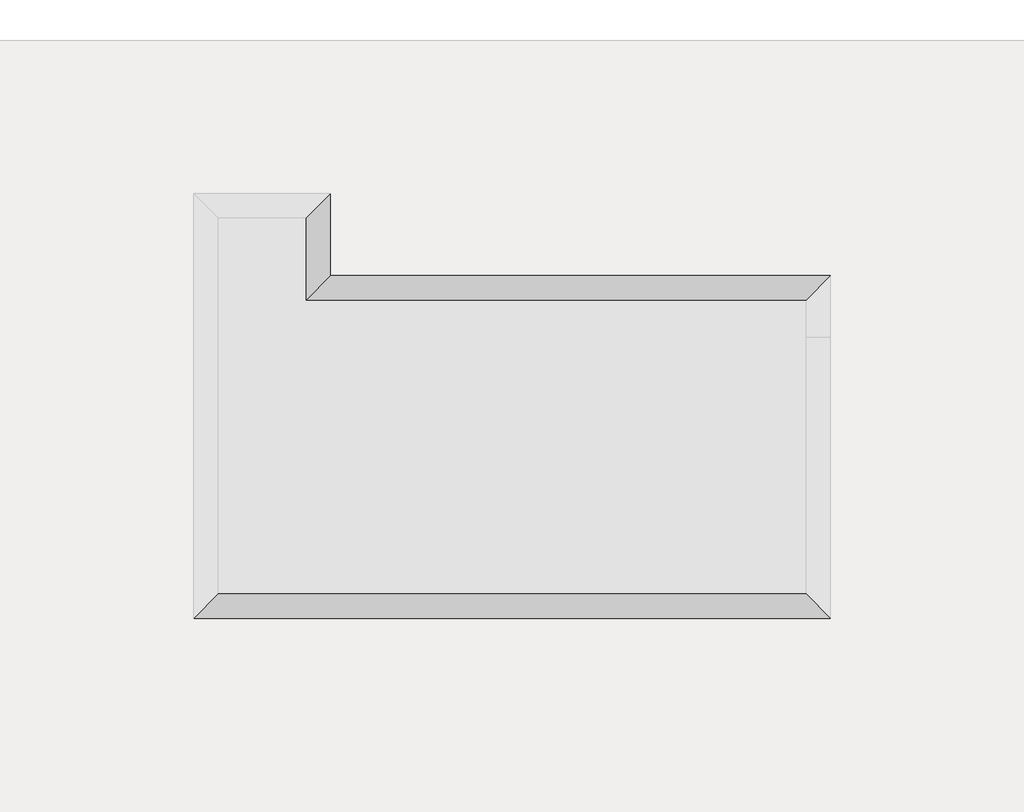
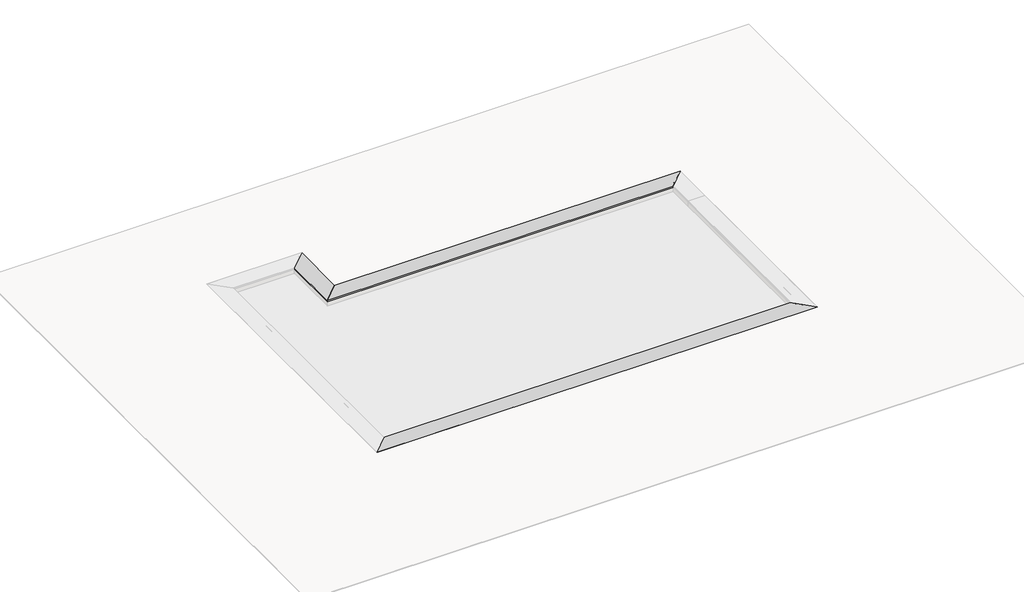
# One storey, part 5 of 8: 5 proxies.
"""IFC4 building model written with IfcOpenShell, lengths in millimetres."""

from ifc_helpers import new_model, si_unit, origin, place, context, project, spatial, faceted_brep, element, save

model = new_model("IFC4")

# Units and contexts
model_context = context("Model", 3, world=origin())
ifc_project = project(units=[si_unit("LENGTHUNIT", "METRE", prefix="MILLI")], contexts=[model_context])

# Site, building, storey
site = spatial("IfcSite", under=ifc_project)
building = spatial("IfcBuilding", under=site)
storey = spatial("IfcBuildingStorey", under=building, Name="EXAGRES_Serie ROCA POLAR_Piscinas_ejemplo", Elevation=14000.0)

# Proxies
placement = place(None, origin())
element("IfcBuildingElementProxy", 1, Name="Wall Sweeps", at=placement, inside=storey, context=model_context, shape_type="Brep", body=[
    faceted_brep([(14272.9426749, -20223.0914606, 14000.0), (14259.9426749, -20236.0914606, 14000.0), (14259.9426749, -20236.0914606, 14033.0), (14589.9426749, -19906.0914606, 14033.0), (14589.9426749, -19906.0914606, 14021.0), (14583.9426749, -19912.0914606, 14021.0), (14583.9426749, -19912.0914606, 14022.0), (14579.9426749, -19916.0914606, 14022.0), (14579.9426749, -19916.0914606, 14021.0), (14573.9426749, -19922.0914606, 14021.0), (14573.9426749, -19922.0914606, 14022.0), (14569.9426749, -19926.0914606, 14022.0), (14569.9426749, -19926.0914606, 14021.0), (14563.9426749, -19932.0914606, 14021.0), (14563.9426749, -19932.0914606, 14022.0), (14559.9426749, -19936.0914606, 14022.0), (14559.9426749, -19936.0914606, 14021.0), (14553.9426749, -19942.0914606, 14021.0), (14553.9426749, -19942.0914606, 14022.0), (14549.9426749, -19946.0914606, 14022.0), (14549.9426749, -19946.0914606, 14021.0), (14543.9426749, -19952.0914606, 14021.0), (14543.9426749, -19952.0914606, 14022.0), (14539.9426749, -19956.0914606, 14022.0), (14539.9426749, -19956.0914606, 14021.0), (14533.9426749, -19962.0914606, 14021.0), (14533.9426749, -19962.0914606, 14022.0), (14529.9426749, -19966.0914606, 14022.0), (14529.9426749, -19966.0914606, 14021.0), (14523.9426749, -19972.0914606, 14021.0), (14523.9426749, -19972.0914606, 14022.0), (14519.9426749, -19976.0914606, 14022.0), (14519.9426749, -19976.0914606, 14021.0), (14513.9426749, -19982.0914606, 14021.0), (14513.9426749, -19982.0914606, 14022.0), (14509.9426749, -19986.0914606, 14022.0), (14509.9426749, -19986.0914606, 14021.0), (14503.9426749, -19992.0914606, 14021.0), (14503.9426749, -19992.0914606, 14022.0), (14499.9426749, -19996.0914606, 14022.0), (14499.9426749, -19996.0914606, 14021.0), (14493.9426749, -20002.0914606, 14021.0), (14493.9426749, -20002.0914606, 14022.0), (14489.9426749, -20006.0914606, 14022.0), (14489.9426749, -20006.0914606, 14021.0), (14483.9426749, -20012.0914606, 14021.0), (14483.9426749, -20012.0914606, 14022.0), (14479.9426749, -20016.0914606, 14022.0), (14479.9426749, -20016.0914606, 14021.0), (14473.9426749, -20022.0914606, 14021.0), (14473.9426749, -20022.0914606, 14022.0), (14469.9426749, -20026.0914606, 14022.0), (14469.9426749, -20026.0914606, 14021.0), (14463.9426749, -20032.0914606, 14021.0), (14463.9426749, -20032.0914606, 14022.0), (14459.9426749, -20036.0914606, 14022.0), (14459.9426749, -20036.0914606, 14021.0), (14453.9426749, -20042.0914606, 14021.0), (14453.9426749, -20042.0914606, 14022.0), (14449.9426749, -20046.0914606, 14022.0), (14449.9426749, -20046.0914606, 14021.0), (14443.9426749, -20052.0914606, 14021.0), (14443.9426749, -20052.0914606, 14022.0), (14439.9426749, -20056.0914606, 14022.0), (14439.9426749, -20056.0914606, 14021.0), (14433.9426749, -20062.0914606, 14021.0), (14433.9426749, -20062.0914606, 14022.0), (14429.9426749, -20066.0914606, 14022.0), (14429.9426749, -20066.0914606, 14021.0), (14423.9426749, -20072.0914606, 14021.0), (14423.9426749, -20072.0914606, 14022.0), (14419.9426749, -20076.0914606, 14022.0), (14419.9426749, -20076.0914606, 14021.0), (14413.9426749, -20082.0914606, 14021.0), (14413.9426749, -20082.0914606, 14022.0), (14409.9426749, -20086.0914606, 14022.0), (14409.9426749, -20086.0914606, 14021.0), (14403.9426749, -20092.0914606, 14021.0), (14403.9426749, -20092.0914606, 14022.0), (14399.9426749, -20096.0914606, 14022.0), (14399.9426749, -20096.0914606, 14021.0), (14393.9426749, -20102.0914606, 14021.0), (14393.9426749, -20102.0914606, 14022.0), (14389.9426749, -20106.0914606, 14022.0), (14389.9426749, -20106.0914606, 14021.0), (14383.9426749, -20112.0914606, 14021.0), (14383.9426749, -20112.0914606, 14022.0), (14379.9426749, -20116.0914606, 14022.0), (14379.9426749, -20116.0914606, 14021.0), (14373.9426749, -20122.0914606, 14021.0), (14373.9426749, -20122.0914606, 14022.0), (14369.9426749, -20126.0914606, 14022.0), (14369.9426749, -20126.0914606, 14021.0), (14363.9426749, -20132.0914606, 14021.0), (14363.9426749, -20132.0914606, 14022.0), (14359.9426749, -20136.0914606, 14022.0), (14359.9426749, -20136.0914606, 14021.0), (14353.9426749, -20142.0914606, 14021.0), (14353.9426749, -20142.0914606, 14022.0), (14349.9426749, -20146.0914606, 14022.0), (14349.9426749, -20146.0914606, 14021.0), (14343.9426749, -20152.0914606, 14021.0), (14343.9426749, -20152.0914606, 14022.0), (14339.9426749, -20156.0914606, 14022.0), (14339.9426749, -20156.0914606, 14021.0), (14333.9426749, -20162.0914606, 14021.0), (14333.9426749, -20162.0914606, 14022.0), (14329.9426749, -20166.0914606, 14022.0), (14329.9426749, -20166.0914606, 14021.0), (14323.9426749, -20172.0914606, 14021.0), (14323.9426749, -20172.0914606, 14022.0), (14319.9426749, -20176.0914606, 14022.0), (14319.9426749, -20176.0914606, 14021.0), (14313.9426749, -20182.0914606, 14021.0), (14313.9426749, -20182.0914606, 14022.0), (14309.9426749, -20186.0914606, 14022.0), (14309.9426749, -20186.0914606, 14021.0), (14303.9426749, -20192.0914606, 14021.0), (14303.9426749, -20192.0914606, 14022.0), (14299.9426749, -20196.0914606, 14022.0), (14299.9426749, -20196.0914606, 14021.0), (14293.9426749, -20202.0914606, 14021.0), (14293.9426749, -20202.0914606, 14022.0), (14289.9426749, -20206.0914606, 14022.0), (14289.9426749, -20206.0914606, 14021.0), (14283.9426749, -20212.0914606, 14021.0), (14283.9426749, -20212.0914606, 14022.0), (14279.9426749, -20216.0914606, 14022.0), (14279.9426749, -20216.0914606, 14021.0), (14272.9426749, -20223.0914606, 14021.0), (14272.9426749, -20223.0914606, 14014.0), (14271.9426749, -20224.0914606, 14014.0), (14271.9426749, -20224.0914606, 14008.0), (14272.9426749, -20223.0914606, 14008.0), (21072.9426749, -20223.0914606, 14000.0), (21072.9426749, -20223.0914606, 14008.0), (21071.9426749, -20224.0914606, 14008.0), (21071.9426749, -20224.0914606, 14014.0), (21072.9426749, -20223.0914606, 14014.0), (21072.9426749, -20223.0914606, 14021.0), (21079.9426749, -20216.0914606, 14021.0), (21079.9426749, -20216.0914606, 14022.0), (21083.9426749, -20212.0914606, 14022.0), (21083.9426749, -20212.0914606, 14021.0), (21089.9426749, -20206.0914606, 14021.0), (21089.9426749, -20206.0914606, 14022.0), (21093.9426749, -20202.0914606, 14022.0), (21093.9426749, -20202.0914606, 14021.0), (21099.9426749, -20196.0914606, 14021.0), (21099.9426749, -20196.0914606, 14022.0), (21103.9426749, -20192.0914606, 14022.0), (21103.9426749, -20192.0914606, 14021.0), (21109.9426749, -20186.0914606, 14021.0), (21109.9426749, -20186.0914606, 14022.0), (21113.9426749, -20182.0914606, 14022.0), (21113.9426749, -20182.0914606, 14021.0), (21119.9426749, -20176.0914606, 14021.0), (21119.9426749, -20176.0914606, 14022.0), (21123.9426749, -20172.0914606, 14022.0), (21123.9426749, -20172.0914606, 14021.0), (21129.9426749, -20166.0914606, 14021.0), (21129.9426749, -20166.0914606, 14022.0), (21133.9426749, -20162.0914606, 14022.0), (21133.9426749, -20162.0914606, 14021.0), (21139.9426749, -20156.0914606, 14021.0), (21139.9426749, -20156.0914606, 14022.0), (21143.9426749, -20152.0914606, 14022.0), (21143.9426749, -20152.0914606, 14021.0), (21149.9426749, -20146.0914606, 14021.0), (21149.9426749, -20146.0914606, 14022.0), (21153.9426749, -20142.0914606, 14022.0), (21153.9426749, -20142.0914606, 14021.0), (21159.9426749, -20136.0914606, 14021.0), (21159.9426749, -20136.0914606, 14022.0), (21163.9426749, -20132.0914606, 14022.0), (21163.9426749, -20132.0914606, 14021.0), (21169.9426749, -20126.0914606, 14021.0), (21169.9426749, -20126.0914606, 14022.0), (21173.9426749, -20122.0914606, 14022.0), (21173.9426749, -20122.0914606, 14021.0), (21179.9426749, -20116.0914606, 14021.0), (21179.9426749, -20116.0914606, 14022.0), (21183.9426749, -20112.0914606, 14022.0), (21183.9426749, -20112.0914606, 14021.0), (21189.9426749, -20106.0914606, 14021.0), (21189.9426749, -20106.0914606, 14022.0), (21193.9426749, -20102.0914606, 14022.0), (21193.9426749, -20102.0914606, 14021.0), (21199.9426749, -20096.0914606, 14021.0), (21199.9426749, -20096.0914606, 14022.0), (21203.9426749, -20092.0914606, 14022.0), (21203.9426749, -20092.0914606, 14021.0), (21209.9426749, -20086.0914606, 14021.0), (21209.9426749, -20086.0914606, 14022.0), (21213.9426749, -20082.0914606, 14022.0), (21213.9426749, -20082.0914606, 14021.0), (21219.9426749, -20076.0914606, 14021.0), (21219.9426749, -20076.0914606, 14022.0), (21223.9426749, -20072.0914606, 14022.0), (21223.9426749, -20072.0914606, 14021.0), (21229.9426749, -20066.0914606, 14021.0), (21229.9426749, -20066.0914606, 14022.0), (21233.9426749, -20062.0914606, 14022.0), (21233.9426749, -20062.0914606, 14021.0), (21239.9426749, -20056.0914606, 14021.0), (21239.9426749, -20056.0914606, 14022.0), (21243.9426749, -20052.0914606, 14022.0), (21243.9426749, -20052.0914606, 14021.0), (21249.9426749, -20046.0914606, 14021.0), (21249.9426749, -20046.0914606, 14022.0), (21253.9426749, -20042.0914606, 14022.0), (21253.9426749, -20042.0914606, 14021.0), (21259.9426749, -20036.0914606, 14021.0), (21259.9426749, -20036.0914606, 14022.0), (21263.9426749, -20032.0914606, 14022.0), (21263.9426749, -20032.0914606, 14021.0), (21269.9426749, -20026.0914606, 14021.0), (21269.9426749, -20026.0914606, 14022.0), (21273.9426749, -20022.0914606, 14022.0), (21273.9426749, -20022.0914606, 14021.0), (21279.9426749, -20016.0914606, 14021.0), (21279.9426749, -20016.0914606, 14022.0), (21283.9426749, -20012.0914606, 14022.0), (21283.9426749, -20012.0914606, 14021.0), (21289.9426749, -20006.0914606, 14021.0), (21289.9426749, -20006.0914606, 14022.0), (21293.9426749, -20002.0914606, 14022.0), (21293.9426749, -20002.0914606, 14021.0), (21299.9426749, -19996.0914606, 14021.0), (21299.9426749, -19996.0914606, 14022.0), (21303.9426749, -19992.0914606, 14022.0), (21303.9426749, -19992.0914606, 14021.0), (21309.9426749, -19986.0914606, 14021.0), (21309.9426749, -19986.0914606, 14022.0), (21313.9426749, -19982.0914606, 14022.0), (21313.9426749, -19982.0914606, 14021.0), (21319.9426749, -19976.0914606, 14021.0), (21319.9426749, -19976.0914606, 14022.0), (21323.9426749, -19972.0914606, 14022.0), (21323.9426749, -19972.0914606, 14021.0), (21329.9426749, -19966.0914606, 14021.0), (21329.9426749, -19966.0914606, 14022.0), (21333.9426749, -19962.0914606, 14022.0), (21333.9426749, -19962.0914606, 14021.0), (21339.9426749, -19956.0914606, 14021.0), (21339.9426749, -19956.0914606, 14022.0), (21343.9426749, -19952.0914606, 14022.0), (21343.9426749, -19952.0914606, 14021.0), (21349.9426749, -19946.0914606, 14021.0), (21349.9426749, -19946.0914606, 14022.0), (21353.9426749, -19942.0914606, 14022.0), (21353.9426749, -19942.0914606, 14021.0), (21359.9426749, -19936.0914606, 14021.0), (21359.9426749, -19936.0914606, 14022.0), (21363.9426749, -19932.0914606, 14022.0), (21363.9426749, -19932.0914606, 14021.0), (21369.9426749, -19926.0914606, 14021.0), (21369.9426749, -19926.0914606, 14022.0), (21373.9426749, -19922.0914606, 14022.0), (21373.9426749, -19922.0914606, 14021.0), (21379.9426749, -19916.0914606, 14021.0), (21379.9426749, -19916.0914606, 14022.0), (21383.9426749, -19912.0914606, 14022.0), (21383.9426749, -19912.0914606, 14021.0), (21389.9426749, -19906.0914606, 14021.0), (21389.9426749, -19906.0914606, 14033.0), (21059.9426749, -20236.0914606, 14033.0), (21059.9426749, -20236.0914606, 14000.0)], [[[0, 1, 2, 3, 4, 5, 6, 7, 8, 9, 10, 11, 12, 13, 14, 15, 16, 17, 18, 19, 20, 21, 22, 23, 24, 25, 26, 27, 28, 29, 30, 31, 32, 33, 34, 35, 36, 37, 38, 39, 40, 41, 42, 43, 44, 45, 46, 47, 48, 49, 50, 51, 52, 53, 54, 55, 56, 57, 58, 59, 60, 61, 62, 63, 64, 65, 66, 67, 68, 69, 70, 71, 72, 73, 74, 75, 76, 77, 78, 79, 80, 81, 82, 83, 84, 85, 86, 87, 88, 89, 90, 91, 92, 93, 94, 95, 96, 97, 98, 99, 100, 101, 102, 103, 104, 105, 106, 107, 108, 109, 110, 111, 112, 113, 114, 115, 116, 117, 118, 119, 120, 121, 122, 123, 124, 125, 126, 127, 128, 129, 130, 131, 132, 133]], [[134, 135, 136, 137, 138, 139, 140, 141, 142, 143, 144, 145, 146, 147, 148, 149, 150, 151, 152, 153, 154, 155, 156, 157, 158, 159, 160, 161, 162, 163, 164, 165, 166, 167, 168, 169, 170, 171, 172, 173, 174, 175, 176, 177, 178, 179, 180, 181, 182, 183, 184, 185, 186, 187, 188, 189, 190, 191, 192, 193, 194, 195, 196, 197, 198, 199, 200, 201, 202, 203, 204, 205, 206, 207, 208, 209, 210, 211, 212, 213, 214, 215, 216, 217, 218, 219, 220, 221, 222, 223, 224, 225, 226, 227, 228, 229, 230, 231, 232, 233, 234, 235, 236, 237, 238, 239, 240, 241, 242, 243, 244, 245, 246, 247, 248, 249, 250, 251, 252, 253, 254, 255, 256, 257, 258, 259, 260, 261, 262, 263, 264, 265, 266, 267]], [[1, 0, 134, 267]], [[2, 1, 267, 266]], [[3, 2, 266, 265]], [[4, 3, 265, 264]], [[5, 4, 264, 263]], [[6, 5, 263, 262]], [[7, 6, 262, 261]], [[8, 7, 261, 260]], [[9, 8, 260, 259]], [[10, 9, 259, 258]], [[11, 10, 258, 257]], [[12, 11, 257, 256]], [[13, 12, 256, 255]], [[14, 13, 255, 254]], [[15, 14, 254, 253]], [[16, 15, 253, 252]], [[17, 16, 252, 251]], [[18, 17, 251, 250]], [[19, 18, 250, 249]], [[20, 19, 249, 248]], [[21, 20, 248, 247]], [[22, 21, 247, 246]], [[23, 22, 246, 245]], [[24, 23, 245, 244]], [[25, 24, 244, 243]], [[26, 25, 243, 242]], [[27, 26, 242, 241]], [[28, 27, 241, 240]], [[29, 28, 240, 239]], [[30, 29, 239, 238]], [[31, 30, 238, 237]], [[32, 31, 237, 236]], [[33, 32, 236, 235]], [[34, 33, 235, 234]], [[35, 34, 234, 233]], [[36, 35, 233, 232]], [[37, 36, 232, 231]], [[38, 37, 231, 230]], [[39, 38, 230, 229]], [[40, 39, 229, 228]], [[41, 40, 228, 227]], [[42, 41, 227, 226]], [[43, 42, 226, 225]], [[44, 43, 225, 224]], [[45, 44, 224, 223]], [[46, 45, 223, 222]], [[47, 46, 222, 221]], [[48, 47, 221, 220]], [[49, 48, 220, 219]], [[50, 49, 219, 218]], [[51, 50, 218, 217]], [[52, 51, 217, 216]], [[53, 52, 216, 215]], [[54, 53, 215, 214]], [[55, 54, 214, 213]], [[56, 55, 213, 212]], [[57, 56, 212, 211]], [[58, 57, 211, 210]], [[59, 58, 210, 209]], [[60, 59, 209, 208]], [[61, 60, 208, 207]], [[62, 61, 207, 206]], [[63, 62, 206, 205]], [[64, 63, 205, 204]], [[65, 64, 204, 203]], [[66, 65, 203, 202]], [[67, 66, 202, 201]], [[68, 67, 201, 200]], [[69, 68, 200, 199]], [[70, 69, 199, 198]], [[71, 70, 198, 197]], [[72, 71, 197, 196]], [[73, 72, 196, 195]], [[74, 73, 195, 194]], [[75, 74, 194, 193]], [[76, 75, 193, 192]], [[77, 76, 192, 191]], [[78, 77, 191, 190]], [[79, 78, 190, 189]], [[80, 79, 189, 188]], [[81, 80, 188, 187]], [[82, 81, 187, 186]], [[83, 82, 186, 185]], [[84, 83, 185, 184]], [[85, 84, 184, 183]], [[86, 85, 183, 182]], [[87, 86, 182, 181]], [[88, 87, 181, 180]], [[89, 88, 180, 179]], [[90, 89, 179, 178]], [[91, 90, 178, 177]], [[92, 91, 177, 176]], [[93, 92, 176, 175]], [[94, 93, 175, 174]], [[95, 94, 174, 173]], [[96, 95, 173, 172]], [[97, 96, 172, 171]], [[98, 97, 171, 170]], [[99, 98, 170, 169]], [[100, 99, 169, 168]], [[101, 100, 168, 167]], [[102, 101, 167, 166]], [[103, 102, 166, 165]], [[104, 103, 165, 164]], [[105, 104, 164, 163]], [[106, 105, 163, 162]], [[107, 106, 162, 161]], [[108, 107, 161, 160]], [[109, 108, 160, 159]], [[110, 109, 159, 158]], [[111, 110, 158, 157]], [[112, 111, 157, 156]], [[113, 112, 156, 155]], [[114, 113, 155, 154]], [[115, 114, 154, 153]], [[116, 115, 153, 152]], [[117, 116, 152, 151]], [[118, 117, 151, 150]], [[119, 118, 150, 149]], [[120, 119, 149, 148]], [[121, 120, 148, 147]], [[122, 121, 147, 146]], [[123, 122, 146, 145]], [[124, 123, 145, 144]], [[125, 124, 144, 143]], [[126, 125, 143, 142]], [[127, 126, 142, 141]], [[128, 127, 141, 140]], [[129, 128, 140, 139]], [[130, 129, 139, 138]], [[131, 130, 138, 137]], [[132, 131, 137, 136]], [[133, 132, 136, 135]], [[0, 133, 135, 134]]]),
])
element("IfcBuildingElementProxy", 2, Name="Wall Sweeps", at=placement, inside=storey, context=model_context, shape_type="Brep", body=[
    faceted_brep([(21072.9426749, -24249.0914606, 14000.0), (21059.9426749, -24236.0914606, 14000.0), (21059.9426749, -24236.0914606, 14033.0), (21389.9426749, -24566.0914606, 14033.0), (21389.9426749, -24566.0914606, 14021.0), (21383.9426749, -24560.0914606, 14021.0), (21383.9426749, -24560.0914606, 14022.0), (21379.9426749, -24556.0914606, 14022.0), (21379.9426749, -24556.0914606, 14021.0), (21373.9426749, -24550.0914606, 14021.0), (21373.9426749, -24550.0914606, 14022.0), (21369.9426749, -24546.0914606, 14022.0), (21369.9426749, -24546.0914606, 14021.0), (21363.9426749, -24540.0914606, 14021.0), (21363.9426749, -24540.0914606, 14022.0), (21359.9426749, -24536.0914606, 14022.0), (21359.9426749, -24536.0914606, 14021.0), (21353.9426749, -24530.0914606, 14021.0), (21353.9426749, -24530.0914606, 14022.0), (21349.9426749, -24526.0914606, 14022.0), (21349.9426749, -24526.0914606, 14021.0), (21343.9426749, -24520.0914606, 14021.0), (21343.9426749, -24520.0914606, 14022.0), (21339.9426749, -24516.0914606, 14022.0), (21339.9426749, -24516.0914606, 14021.0), (21333.9426749, -24510.0914606, 14021.0), (21333.9426749, -24510.0914606, 14022.0), (21329.9426749, -24506.0914606, 14022.0), (21329.9426749, -24506.0914606, 14021.0), (21323.9426749, -24500.0914606, 14021.0), (21323.9426749, -24500.0914606, 14022.0), (21319.9426749, -24496.0914606, 14022.0), (21319.9426749, -24496.0914606, 14021.0), (21313.9426749, -24490.0914606, 14021.0), (21313.9426749, -24490.0914606, 14022.0), (21309.9426749, -24486.0914606, 14022.0), (21309.9426749, -24486.0914606, 14021.0), (21303.9426749, -24480.0914606, 14021.0), (21303.9426749, -24480.0914606, 14022.0), (21299.9426749, -24476.0914606, 14022.0), (21299.9426749, -24476.0914606, 14021.0), (21293.9426749, -24470.0914606, 14021.0), (21293.9426749, -24470.0914606, 14022.0), (21289.9426749, -24466.0914606, 14022.0), (21289.9426749, -24466.0914606, 14021.0), (21283.9426749, -24460.0914606, 14021.0), (21283.9426749, -24460.0914606, 14022.0), (21279.9426749, -24456.0914606, 14022.0), (21279.9426749, -24456.0914606, 14021.0), (21273.9426749, -24450.0914606, 14021.0), (21273.9426749, -24450.0914606, 14022.0), (21269.9426749, -24446.0914606, 14022.0), (21269.9426749, -24446.0914606, 14021.0), (21263.9426749, -24440.0914606, 14021.0), (21263.9426749, -24440.0914606, 14022.0), (21259.9426749, -24436.0914606, 14022.0), (21259.9426749, -24436.0914606, 14021.0), (21253.9426749, -24430.0914606, 14021.0), (21253.9426749, -24430.0914606, 14022.0), (21249.9426749, -24426.0914606, 14022.0), (21249.9426749, -24426.0914606, 14021.0), (21243.9426749, -24420.0914606, 14021.0), (21243.9426749, -24420.0914606, 14022.0), (21239.9426749, -24416.0914606, 14022.0), (21239.9426749, -24416.0914606, 14021.0), (21233.9426749, -24410.0914606, 14021.0), (21233.9426749, -24410.0914606, 14022.0), (21229.9426749, -24406.0914606, 14022.0), (21229.9426749, -24406.0914606, 14021.0), (21223.9426749, -24400.0914606, 14021.0), (21223.9426749, -24400.0914606, 14022.0), (21219.9426749, -24396.0914606, 14022.0), (21219.9426749, -24396.0914606, 14021.0), (21213.9426749, -24390.0914606, 14021.0), (21213.9426749, -24390.0914606, 14022.0), (21209.9426749, -24386.0914606, 14022.0), (21209.9426749, -24386.0914606, 14021.0), (21203.9426749, -24380.0914606, 14021.0), (21203.9426749, -24380.0914606, 14022.0), (21199.9426749, -24376.0914606, 14022.0), (21199.9426749, -24376.0914606, 14021.0), (21193.9426749, -24370.0914606, 14021.0), (21193.9426749, -24370.0914606, 14022.0), (21189.9426749, -24366.0914606, 14022.0), (21189.9426749, -24366.0914606, 14021.0), (21183.9426749, -24360.0914606, 14021.0), (21183.9426749, -24360.0914606, 14022.0), (21179.9426749, -24356.0914606, 14022.0), (21179.9426749, -24356.0914606, 14021.0), (21173.9426749, -24350.0914606, 14021.0), (21173.9426749, -24350.0914606, 14022.0), (21169.9426749, -24346.0914606, 14022.0), (21169.9426749, -24346.0914606, 14021.0), (21163.9426749, -24340.0914606, 14021.0), (21163.9426749, -24340.0914606, 14022.0), (21159.9426749, -24336.0914606, 14022.0), (21159.9426749, -24336.0914606, 14021.0), (21153.9426749, -24330.0914606, 14021.0), (21153.9426749, -24330.0914606, 14022.0), (21149.9426749, -24326.0914606, 14022.0), (21149.9426749, -24326.0914606, 14021.0), (21143.9426749, -24320.0914606, 14021.0), (21143.9426749, -24320.0914606, 14022.0), (21139.9426749, -24316.0914606, 14022.0), (21139.9426749, -24316.0914606, 14021.0), (21133.9426749, -24310.0914606, 14021.0), (21133.9426749, -24310.0914606, 14022.0), (21129.9426749, -24306.0914606, 14022.0), (21129.9426749, -24306.0914606, 14021.0), (21123.9426749, -24300.0914606, 14021.0), (21123.9426749, -24300.0914606, 14022.0), (21119.9426749, -24296.0914606, 14022.0), (21119.9426749, -24296.0914606, 14021.0), (21113.9426749, -24290.0914606, 14021.0), (21113.9426749, -24290.0914606, 14022.0), (21109.9426749, -24286.0914606, 14022.0), (21109.9426749, -24286.0914606, 14021.0), (21103.9426749, -24280.0914606, 14021.0), (21103.9426749, -24280.0914606, 14022.0), (21099.9426749, -24276.0914606, 14022.0), (21099.9426749, -24276.0914606, 14021.0), (21093.9426749, -24270.0914606, 14021.0), (21093.9426749, -24270.0914606, 14022.0), (21089.9426749, -24266.0914606, 14022.0), (21089.9426749, -24266.0914606, 14021.0), (21083.9426749, -24260.0914606, 14021.0), (21083.9426749, -24260.0914606, 14022.0), (21079.9426749, -24256.0914606, 14022.0), (21079.9426749, -24256.0914606, 14021.0), (21072.9426749, -24249.0914606, 14021.0), (21072.9426749, -24249.0914606, 14014.0), (21071.9426749, -24248.0914606, 14014.0), (21071.9426749, -24248.0914606, 14008.0), (21072.9426749, -24249.0914606, 14008.0), (13046.9426749, -24249.0914606, 14000.0), (13046.9426749, -24249.0914606, 14008.0), (13047.9426749, -24248.0914606, 14008.0), (13047.9426749, -24248.0914606, 14014.0), (13046.9426749, -24249.0914606, 14014.0), (13046.9426749, -24249.0914606, 14021.0), (13039.9426749, -24256.0914606, 14021.0), (13039.9426749, -24256.0914606, 14022.0), (13035.9426749, -24260.0914606, 14022.0), (13035.9426749, -24260.0914606, 14021.0), (13029.9426749, -24266.0914606, 14021.0), (13029.9426749, -24266.0914606, 14022.0), (13025.9426749, -24270.0914606, 14022.0), (13025.9426749, -24270.0914606, 14021.0), (13019.9426749, -24276.0914606, 14021.0), (13019.9426749, -24276.0914606, 14022.0), (13015.9426749, -24280.0914606, 14022.0), (13015.9426749, -24280.0914606, 14021.0), (13009.9426749, -24286.0914606, 14021.0), (13009.9426749, -24286.0914606, 14022.0), (13005.9426749, -24290.0914606, 14022.0), (13005.9426749, -24290.0914606, 14021.0), (12999.9426749, -24296.0914606, 14021.0), (12999.9426749, -24296.0914606, 14022.0), (12995.9426749, -24300.0914606, 14022.0), (12995.9426749, -24300.0914606, 14021.0), (12989.9426749, -24306.0914606, 14021.0), (12989.9426749, -24306.0914606, 14022.0), (12985.9426749, -24310.0914606, 14022.0), (12985.9426749, -24310.0914606, 14021.0), (12979.9426749, -24316.0914606, 14021.0), (12979.9426749, -24316.0914606, 14022.0), (12975.9426749, -24320.0914606, 14022.0), (12975.9426749, -24320.0914606, 14021.0), (12969.9426749, -24326.0914606, 14021.0), (12969.9426749, -24326.0914606, 14022.0), (12965.9426749, -24330.0914606, 14022.0), (12965.9426749, -24330.0914606, 14021.0), (12959.9426749, -24336.0914606, 14021.0), (12959.9426749, -24336.0914606, 14022.0), (12955.9426749, -24340.0914606, 14022.0), (12955.9426749, -24340.0914606, 14021.0), (12949.9426749, -24346.0914606, 14021.0), (12949.9426749, -24346.0914606, 14022.0), (12945.9426749, -24350.0914606, 14022.0), (12945.9426749, -24350.0914606, 14021.0), (12939.9426749, -24356.0914606, 14021.0), (12939.9426749, -24356.0914606, 14022.0), (12935.9426749, -24360.0914606, 14022.0), (12935.9426749, -24360.0914606, 14021.0), (12929.9426749, -24366.0914606, 14021.0), (12929.9426749, -24366.0914606, 14022.0), (12925.9426749, -24370.0914606, 14022.0), (12925.9426749, -24370.0914606, 14021.0), (12919.9426749, -24376.0914606, 14021.0), (12919.9426749, -24376.0914606, 14022.0), (12915.9426749, -24380.0914606, 14022.0), (12915.9426749, -24380.0914606, 14021.0), (12909.9426749, -24386.0914606, 14021.0), (12909.9426749, -24386.0914606, 14022.0), (12905.9426749, -24390.0914606, 14022.0), (12905.9426749, -24390.0914606, 14021.0), (12899.9426749, -24396.0914606, 14021.0), (12899.9426749, -24396.0914606, 14022.0), (12895.9426749, -24400.0914606, 14022.0), (12895.9426749, -24400.0914606, 14021.0), (12889.9426749, -24406.0914606, 14021.0), (12889.9426749, -24406.0914606, 14022.0), (12885.9426749, -24410.0914606, 14022.0), (12885.9426749, -24410.0914606, 14021.0), (12879.9426749, -24416.0914606, 14021.0), (12879.9426749, -24416.0914606, 14022.0), (12875.9426749, -24420.0914606, 14022.0), (12875.9426749, -24420.0914606, 14021.0), (12869.9426749, -24426.0914606, 14021.0), (12869.9426749, -24426.0914606, 14022.0), (12865.9426749, -24430.0914606, 14022.0), (12865.9426749, -24430.0914606, 14021.0), (12859.9426749, -24436.0914606, 14021.0), (12859.9426749, -24436.0914606, 14022.0), (12855.9426749, -24440.0914606, 14022.0), (12855.9426749, -24440.0914606, 14021.0), (12849.9426749, -24446.0914606, 14021.0), (12849.9426749, -24446.0914606, 14022.0), (12845.9426749, -24450.0914606, 14022.0), (12845.9426749, -24450.0914606, 14021.0), (12839.9426749, -24456.0914606, 14021.0), (12839.9426749, -24456.0914606, 14022.0), (12835.9426749, -24460.0914606, 14022.0), (12835.9426749, -24460.0914606, 14021.0), (12829.9426749, -24466.0914606, 14021.0), (12829.9426749, -24466.0914606, 14022.0), (12825.9426749, -24470.0914606, 14022.0), (12825.9426749, -24470.0914606, 14021.0), (12819.9426749, -24476.0914606, 14021.0), (12819.9426749, -24476.0914606, 14022.0), (12815.9426749, -24480.0914606, 14022.0), (12815.9426749, -24480.0914606, 14021.0), (12809.9426749, -24486.0914606, 14021.0), (12809.9426749, -24486.0914606, 14022.0), (12805.9426749, -24490.0914606, 14022.0), (12805.9426749, -24490.0914606, 14021.0), (12799.9426749, -24496.0914606, 14021.0), (12799.9426749, -24496.0914606, 14022.0), (12795.9426749, -24500.0914606, 14022.0), (12795.9426749, -24500.0914606, 14021.0), (12789.9426749, -24506.0914606, 14021.0), (12789.9426749, -24506.0914606, 14022.0), (12785.9426749, -24510.0914606, 14022.0), (12785.9426749, -24510.0914606, 14021.0), (12779.9426749, -24516.0914606, 14021.0), (12779.9426749, -24516.0914606, 14022.0), (12775.9426749, -24520.0914606, 14022.0), (12775.9426749, -24520.0914606, 14021.0), (12769.9426749, -24526.0914606, 14021.0), (12769.9426749, -24526.0914606, 14022.0), (12765.9426749, -24530.0914606, 14022.0), (12765.9426749, -24530.0914606, 14021.0), (12759.9426749, -24536.0914606, 14021.0), (12759.9426749, -24536.0914606, 14022.0), (12755.9426749, -24540.0914606, 14022.0), (12755.9426749, -24540.0914606, 14021.0), (12749.9426749, -24546.0914606, 14021.0), (12749.9426749, -24546.0914606, 14022.0), (12745.9426749, -24550.0914606, 14022.0), (12745.9426749, -24550.0914606, 14021.0), (12739.9426749, -24556.0914606, 14021.0), (12739.9426749, -24556.0914606, 14022.0), (12735.9426749, -24560.0914606, 14022.0), (12735.9426749, -24560.0914606, 14021.0), (12729.9426749, -24566.0914606, 14021.0), (12729.9426749, -24566.0914606, 14033.0), (13059.9426749, -24236.0914606, 14033.0), (13059.9426749, -24236.0914606, 14000.0)], [[[0, 1, 2, 3, 4, 5, 6, 7, 8, 9, 10, 11, 12, 13, 14, 15, 16, 17, 18, 19, 20, 21, 22, 23, 24, 25, 26, 27, 28, 29, 30, 31, 32, 33, 34, 35, 36, 37, 38, 39, 40, 41, 42, 43, 44, 45, 46, 47, 48, 49, 50, 51, 52, 53, 54, 55, 56, 57, 58, 59, 60, 61, 62, 63, 64, 65, 66, 67, 68, 69, 70, 71, 72, 73, 74, 75, 76, 77, 78, 79, 80, 81, 82, 83, 84, 85, 86, 87, 88, 89, 90, 91, 92, 93, 94, 95, 96, 97, 98, 99, 100, 101, 102, 103, 104, 105, 106, 107, 108, 109, 110, 111, 112, 113, 114, 115, 116, 117, 118, 119, 120, 121, 122, 123, 124, 125, 126, 127, 128, 129, 130, 131, 132, 133]], [[134, 135, 136, 137, 138, 139, 140, 141, 142, 143, 144, 145, 146, 147, 148, 149, 150, 151, 152, 153, 154, 155, 156, 157, 158, 159, 160, 161, 162, 163, 164, 165, 166, 167, 168, 169, 170, 171, 172, 173, 174, 175, 176, 177, 178, 179, 180, 181, 182, 183, 184, 185, 186, 187, 188, 189, 190, 191, 192, 193, 194, 195, 196, 197, 198, 199, 200, 201, 202, 203, 204, 205, 206, 207, 208, 209, 210, 211, 212, 213, 214, 215, 216, 217, 218, 219, 220, 221, 222, 223, 224, 225, 226, 227, 228, 229, 230, 231, 232, 233, 234, 235, 236, 237, 238, 239, 240, 241, 242, 243, 244, 245, 246, 247, 248, 249, 250, 251, 252, 253, 254, 255, 256, 257, 258, 259, 260, 261, 262, 263, 264, 265, 266, 267]], [[1, 0, 134, 267]], [[2, 1, 267, 266]], [[3, 2, 266, 265]], [[4, 3, 265, 264]], [[5, 4, 264, 263]], [[6, 5, 263, 262]], [[7, 6, 262, 261]], [[8, 7, 261, 260]], [[9, 8, 260, 259]], [[10, 9, 259, 258]], [[11, 10, 258, 257]], [[12, 11, 257, 256]], [[13, 12, 256, 255]], [[14, 13, 255, 254]], [[15, 14, 254, 253]], [[16, 15, 253, 252]], [[17, 16, 252, 251]], [[18, 17, 251, 250]], [[19, 18, 250, 249]], [[20, 19, 249, 248]], [[21, 20, 248, 247]], [[22, 21, 247, 246]], [[23, 22, 246, 245]], [[24, 23, 245, 244]], [[25, 24, 244, 243]], [[26, 25, 243, 242]], [[27, 26, 242, 241]], [[28, 27, 241, 240]], [[29, 28, 240, 239]], [[30, 29, 239, 238]], [[31, 30, 238, 237]], [[32, 31, 237, 236]], [[33, 32, 236, 235]], [[34, 33, 235, 234]], [[35, 34, 234, 233]], [[36, 35, 233, 232]], [[37, 36, 232, 231]], [[38, 37, 231, 230]], [[39, 38, 230, 229]], [[40, 39, 229, 228]], [[41, 40, 228, 227]], [[42, 41, 227, 226]], [[43, 42, 226, 225]], [[44, 43, 225, 224]], [[45, 44, 224, 223]], [[46, 45, 223, 222]], [[47, 46, 222, 221]], [[48, 47, 221, 220]], [[49, 48, 220, 219]], [[50, 49, 219, 218]], [[51, 50, 218, 217]], [[52, 51, 217, 216]], [[53, 52, 216, 215]], [[54, 53, 215, 214]], [[55, 54, 214, 213]], [[56, 55, 213, 212]], [[57, 56, 212, 211]], [[58, 57, 211, 210]], [[59, 58, 210, 209]], [[60, 59, 209, 208]], [[61, 60, 208, 207]], [[62, 61, 207, 206]], [[63, 62, 206, 205]], [[64, 63, 205, 204]], [[65, 64, 204, 203]], [[66, 65, 203, 202]], [[67, 66, 202, 201]], [[68, 67, 201, 200]], [[69, 68, 200, 199]], [[70, 69, 199, 198]], [[71, 70, 198, 197]], [[72, 71, 197, 196]], [[73, 72, 196, 195]], [[74, 73, 195, 194]], [[75, 74, 194, 193]], [[76, 75, 193, 192]], [[77, 76, 192, 191]], [[78, 77, 191, 190]], [[79, 78, 190, 189]], [[80, 79, 189, 188]], [[81, 80, 188, 187]], [[82, 81, 187, 186]], [[83, 82, 186, 185]], [[84, 83, 185, 184]], [[85, 84, 184, 183]], [[86, 85, 183, 182]], [[87, 86, 182, 181]], [[88, 87, 181, 180]], [[89, 88, 180, 179]], [[90, 89, 179, 178]], [[91, 90, 178, 177]], [[92, 91, 177, 176]], [[93, 92, 176, 175]], [[94, 93, 175, 174]], [[95, 94, 174, 173]], [[96, 95, 173, 172]], [[97, 96, 172, 171]], [[98, 97, 171, 170]], [[99, 98, 170, 169]], [[100, 99, 169, 168]], [[101, 100, 168, 167]], [[102, 101, 167, 166]], [[103, 102, 166, 165]], [[104, 103, 165, 164]], [[105, 104, 164, 163]], [[106, 105, 163, 162]], [[107, 106, 162, 161]], [[108, 107, 161, 160]], [[109, 108, 160, 159]], [[110, 109, 159, 158]], [[111, 110, 158, 157]], [[112, 111, 157, 156]], [[113, 112, 156, 155]], [[114, 113, 155, 154]], [[115, 114, 154, 153]], [[116, 115, 153, 152]], [[117, 116, 152, 151]], [[118, 117, 151, 150]], [[119, 118, 150, 149]], [[120, 119, 149, 148]], [[121, 120, 148, 147]], [[122, 121, 147, 146]], [[123, 122, 146, 145]], [[124, 123, 145, 144]], [[125, 124, 144, 143]], [[126, 125, 143, 142]], [[127, 126, 142, 141]], [[128, 127, 141, 140]], [[129, 128, 140, 139]], [[130, 129, 139, 138]], [[131, 130, 138, 137]], [[132, 131, 137, 136]], [[133, 132, 136, 135]], [[0, 133, 135, 134]]]),
])
element("IfcBuildingElementProxy", 3, Name="Wall Sweeps", at=placement, inside=storey, context=model_context, shape_type="Brep", body=[
    faceted_brep([(21379.9426749, -24556.0914606, 13818.74), (21074.9426749, -24251.0914606, 13818.74), (21074.9426749, -24251.0914606, 14018.74), (21379.9426749, -24556.0914606, 14018.74), (12739.9426749, -24556.0914606, 13818.74), (12739.9426749, -24556.0914606, 14018.74), (13044.9426749, -24251.0914606, 14018.74), (13044.9426749, -24251.0914606, 14000.0), (13044.9426749, -24251.0914606, 13818.74), (12834.9426749, -24461.0914606, 13818.74)], [[[0, 1, 2, 3]], [[4, 5, 6, 7, 8, 9]], [[2, 1, 8, 7, 6]], [[1, 0, 4, 9, 8]], [[3, 2, 6, 5]], [[0, 3, 5, 4]]]),
])
element("IfcBuildingElementProxy", 4, Name="Wall Sweeps", at=placement, inside=storey, context=model_context, shape_type="Brep", body=[
    faceted_brep([(14272.9426749, -20223.0914606, 14000.0), (14272.9426749, -20223.0914606, 14008.0), (14271.9426749, -20224.0914606, 14008.0), (14271.9426749, -20224.0914606, 14014.0), (14272.9426749, -20223.0914606, 14014.0), (14272.9426749, -20223.0914606, 14021.0), (14279.9426749, -20216.0914606, 14021.0), (14279.9426749, -20216.0914606, 14022.0), (14283.9426749, -20212.0914606, 14022.0), (14283.9426749, -20212.0914606, 14021.0), (14289.9426749, -20206.0914606, 14021.0), (14289.9426749, -20206.0914606, 14022.0), (14293.9426749, -20202.0914606, 14022.0), (14293.9426749, -20202.0914606, 14021.0), (14299.9426749, -20196.0914606, 14021.0), (14299.9426749, -20196.0914606, 14022.0), (14303.9426749, -20192.0914606, 14022.0), (14303.9426749, -20192.0914606, 14021.0), (14309.9426749, -20186.0914606, 14021.0), (14309.9426749, -20186.0914606, 14022.0), (14313.9426749, -20182.0914606, 14022.0), (14313.9426749, -20182.0914606, 14021.0), (14319.9426749, -20176.0914606, 14021.0), (14319.9426749, -20176.0914606, 14022.0), (14323.9426749, -20172.0914606, 14022.0), (14323.9426749, -20172.0914606, 14021.0), (14329.9426749, -20166.0914606, 14021.0), (14329.9426749, -20166.0914606, 14022.0), (14333.9426749, -20162.0914606, 14022.0), (14333.9426749, -20162.0914606, 14021.0), (14339.9426749, -20156.0914606, 14021.0), (14339.9426749, -20156.0914606, 14022.0), (14343.9426749, -20152.0914606, 14022.0), (14343.9426749, -20152.0914606, 14021.0), (14349.9426749, -20146.0914606, 14021.0), (14349.9426749, -20146.0914606, 14022.0), (14353.9426749, -20142.0914606, 14022.0), (14353.9426749, -20142.0914606, 14021.0), (14359.9426749, -20136.0914606, 14021.0), (14359.9426749, -20136.0914606, 14022.0), (14363.9426749, -20132.0914606, 14022.0), (14363.9426749, -20132.0914606, 14021.0), (14369.9426749, -20126.0914606, 14021.0), (14369.9426749, -20126.0914606, 14022.0), (14373.9426749, -20122.0914606, 14022.0), (14373.9426749, -20122.0914606, 14021.0), (14379.9426749, -20116.0914606, 14021.0), (14379.9426749, -20116.0914606, 14022.0), (14383.9426749, -20112.0914606, 14022.0), (14383.9426749, -20112.0914606, 14021.0), (14389.9426749, -20106.0914606, 14021.0), (14389.9426749, -20106.0914606, 14022.0), (14393.9426749, -20102.0914606, 14022.0), (14393.9426749, -20102.0914606, 14021.0), (14399.9426749, -20096.0914606, 14021.0), (14399.9426749, -20096.0914606, 14022.0), (14403.9426749, -20092.0914606, 14022.0), (14403.9426749, -20092.0914606, 14021.0), (14409.9426749, -20086.0914606, 14021.0), (14409.9426749, -20086.0914606, 14022.0), (14413.9426749, -20082.0914606, 14022.0), (14413.9426749, -20082.0914606, 14021.0), (14419.9426749, -20076.0914606, 14021.0), (14419.9426749, -20076.0914606, 14022.0), (14423.9426749, -20072.0914606, 14022.0), (14423.9426749, -20072.0914606, 14021.0), (14429.9426749, -20066.0914606, 14021.0), (14429.9426749, -20066.0914606, 14022.0), (14433.9426749, -20062.0914606, 14022.0), (14433.9426749, -20062.0914606, 14021.0), (14439.9426749, -20056.0914606, 14021.0), (14439.9426749, -20056.0914606, 14022.0), (14443.9426749, -20052.0914606, 14022.0), (14443.9426749, -20052.0914606, 14021.0), (14449.9426749, -20046.0914606, 14021.0), (14449.9426749, -20046.0914606, 14022.0), (14453.9426749, -20042.0914606, 14022.0), (14453.9426749, -20042.0914606, 14021.0), (14459.9426749, -20036.0914606, 14021.0), (14459.9426749, -20036.0914606, 14022.0), (14463.9426749, -20032.0914606, 14022.0), (14463.9426749, -20032.0914606, 14021.0), (14469.9426749, -20026.0914606, 14021.0), (14469.9426749, -20026.0914606, 14022.0), (14473.9426749, -20022.0914606, 14022.0), (14473.9426749, -20022.0914606, 14021.0), (14479.9426749, -20016.0914606, 14021.0), (14479.9426749, -20016.0914606, 14022.0), (14483.9426749, -20012.0914606, 14022.0), (14483.9426749, -20012.0914606, 14021.0), (14489.9426749, -20006.0914606, 14021.0), (14489.9426749, -20006.0914606, 14022.0), (14493.9426749, -20002.0914606, 14022.0), (14493.9426749, -20002.0914606, 14021.0), (14499.9426749, -19996.0914606, 14021.0), (14499.9426749, -19996.0914606, 14022.0), (14503.9426749, -19992.0914606, 14022.0), (14503.9426749, -19992.0914606, 14021.0), (14509.9426749, -19986.0914606, 14021.0), (14509.9426749, -19986.0914606, 14022.0), (14513.9426749, -19982.0914606, 14022.0), (14513.9426749, -19982.0914606, 14021.0), (14519.9426749, -19976.0914606, 14021.0), (14519.9426749, -19976.0914606, 14022.0), (14523.9426749, -19972.0914606, 14022.0), (14523.9426749, -19972.0914606, 14021.0), (14529.9426749, -19966.0914606, 14021.0), (14529.9426749, -19966.0914606, 14022.0), (14533.9426749, -19962.0914606, 14022.0), (14533.9426749, -19962.0914606, 14021.0), (14539.9426749, -19956.0914606, 14021.0), (14539.9426749, -19956.0914606, 14022.0), (14543.9426749, -19952.0914606, 14022.0), (14543.9426749, -19952.0914606, 14021.0), (14549.9426749, -19946.0914606, 14021.0), (14549.9426749, -19946.0914606, 14022.0), (14553.9426749, -19942.0914606, 14022.0), (14553.9426749, -19942.0914606, 14021.0), (14559.9426749, -19936.0914606, 14021.0), (14559.9426749, -19936.0914606, 14022.0), (14563.9426749, -19932.0914606, 14022.0), (14563.9426749, -19932.0914606, 14021.0), (14569.9426749, -19926.0914606, 14021.0), (14569.9426749, -19926.0914606, 14022.0), (14573.9426749, -19922.0914606, 14022.0), (14573.9426749, -19922.0914606, 14021.0), (14579.9426749, -19916.0914606, 14021.0), (14579.9426749, -19916.0914606, 14022.0), (14583.9426749, -19912.0914606, 14022.0), (14583.9426749, -19912.0914606, 14021.0), (14589.9426749, -19906.0914606, 14021.0), (14589.9426749, -19906.0914606, 14033.0), (14259.9426749, -20236.0914606, 14033.0), (14259.9426749, -20236.0914606, 14000.0), (14272.9426749, -19103.0914606, 14000.0), (14259.9426749, -19116.0914606, 14000.0), (14259.9426749, -19116.0914606, 14033.0), (14589.9426749, -18786.0914606, 14033.0), (14589.9426749, -18786.0914606, 14021.0), (14583.9426749, -18792.0914606, 14021.0), (14583.9426749, -18792.0914606, 14022.0), (14579.9426749, -18796.0914606, 14022.0), (14579.9426749, -18796.0914606, 14021.0), (14573.9426749, -18802.0914606, 14021.0), (14573.9426749, -18802.0914606, 14022.0), (14569.9426749, -18806.0914606, 14022.0), (14569.9426749, -18806.0914606, 14021.0), (14563.9426749, -18812.0914606, 14021.0), (14563.9426749, -18812.0914606, 14022.0), (14559.9426749, -18816.0914606, 14022.0), (14559.9426749, -18816.0914606, 14021.0), (14553.9426749, -18822.0914606, 14021.0), (14553.9426749, -18822.0914606, 14022.0), (14549.9426749, -18826.0914606, 14022.0), (14549.9426749, -18826.0914606, 14021.0), (14543.9426749, -18832.0914606, 14021.0), (14543.9426749, -18832.0914606, 14022.0), (14539.9426749, -18836.0914606, 14022.0), (14539.9426749, -18836.0914606, 14021.0), (14533.9426749, -18842.0914606, 14021.0), (14533.9426749, -18842.0914606, 14022.0), (14529.9426749, -18846.0914606, 14022.0), (14529.9426749, -18846.0914606, 14021.0), (14523.9426749, -18852.0914606, 14021.0), (14523.9426749, -18852.0914606, 14022.0), (14519.9426749, -18856.0914606, 14022.0), (14519.9426749, -18856.0914606, 14021.0), (14513.9426749, -18862.0914606, 14021.0), (14513.9426749, -18862.0914606, 14022.0), (14509.9426749, -18866.0914606, 14022.0), (14509.9426749, -18866.0914606, 14021.0), (14503.9426749, -18872.0914606, 14021.0), (14503.9426749, -18872.0914606, 14022.0), (14499.9426749, -18876.0914606, 14022.0), (14499.9426749, -18876.0914606, 14021.0), (14493.9426749, -18882.0914606, 14021.0), (14493.9426749, -18882.0914606, 14022.0), (14489.9426749, -18886.0914606, 14022.0), (14489.9426749, -18886.0914606, 14021.0), (14483.9426749, -18892.0914606, 14021.0), (14483.9426749, -18892.0914606, 14022.0), (14479.9426749, -18896.0914606, 14022.0), (14479.9426749, -18896.0914606, 14021.0), (14473.9426749, -18902.0914606, 14021.0), (14473.9426749, -18902.0914606, 14022.0), (14469.9426749, -18906.0914606, 14022.0), (14469.9426749, -18906.0914606, 14021.0), (14463.9426749, -18912.0914606, 14021.0), (14463.9426749, -18912.0914606, 14022.0), (14459.9426749, -18916.0914606, 14022.0), (14459.9426749, -18916.0914606, 14021.0), (14453.9426749, -18922.0914606, 14021.0), (14453.9426749, -18922.0914606, 14022.0), (14449.9426749, -18926.0914606, 14022.0), (14449.9426749, -18926.0914606, 14021.0), (14443.9426749, -18932.0914606, 14021.0), (14443.9426749, -18932.0914606, 14022.0), (14439.9426749, -18936.0914606, 14022.0), (14439.9426749, -18936.0914606, 14021.0), (14433.9426749, -18942.0914606, 14021.0), (14433.9426749, -18942.0914606, 14022.0), (14429.9426749, -18946.0914606, 14022.0), (14429.9426749, -18946.0914606, 14021.0), (14423.9426749, -18952.0914606, 14021.0), (14423.9426749, -18952.0914606, 14022.0), (14419.9426749, -18956.0914606, 14022.0), (14419.9426749, -18956.0914606, 14021.0), (14413.9426749, -18962.0914606, 14021.0), (14413.9426749, -18962.0914606, 14022.0), (14409.9426749, -18966.0914606, 14022.0), (14409.9426749, -18966.0914606, 14021.0), (14403.9426749, -18972.0914606, 14021.0), (14403.9426749, -18972.0914606, 14022.0), (14399.9426749, -18976.0914606, 14022.0), (14399.9426749, -18976.0914606, 14021.0), (14393.9426749, -18982.0914606, 14021.0), (14393.9426749, -18982.0914606, 14022.0), (14389.9426749, -18986.0914606, 14022.0), (14389.9426749, -18986.0914606, 14021.0), (14383.9426749, -18992.0914606, 14021.0), (14383.9426749, -18992.0914606, 14022.0), (14379.9426749, -18996.0914606, 14022.0), (14379.9426749, -18996.0914606, 14021.0), (14373.9426749, -19002.0914606, 14021.0), (14373.9426749, -19002.0914606, 14022.0), (14369.9426749, -19006.0914606, 14022.0), (14369.9426749, -19006.0914606, 14021.0), (14363.9426749, -19012.0914606, 14021.0), (14363.9426749, -19012.0914606, 14022.0), (14359.9426749, -19016.0914606, 14022.0), (14359.9426749, -19016.0914606, 14021.0), (14353.9426749, -19022.0914606, 14021.0), (14353.9426749, -19022.0914606, 14022.0), (14349.9426749, -19026.0914606, 14022.0), (14349.9426749, -19026.0914606, 14021.0), (14343.9426749, -19032.0914606, 14021.0), (14343.9426749, -19032.0914606, 14022.0), (14339.9426749, -19036.0914606, 14022.0), (14339.9426749, -19036.0914606, 14021.0), (14333.9426749, -19042.0914606, 14021.0), (14333.9426749, -19042.0914606, 14022.0), (14329.9426749, -19046.0914606, 14022.0), (14329.9426749, -19046.0914606, 14021.0), (14323.9426749, -19052.0914606, 14021.0), (14323.9426749, -19052.0914606, 14022.0), (14319.9426749, -19056.0914606, 14022.0), (14319.9426749, -19056.0914606, 14021.0), (14313.9426749, -19062.0914606, 14021.0), (14313.9426749, -19062.0914606, 14022.0), (14309.9426749, -19066.0914606, 14022.0), (14309.9426749, -19066.0914606, 14021.0), (14303.9426749, -19072.0914606, 14021.0), (14303.9426749, -19072.0914606, 14022.0), (14299.9426749, -19076.0914606, 14022.0), (14299.9426749, -19076.0914606, 14021.0), (14293.9426749, -19082.0914606, 14021.0), (14293.9426749, -19082.0914606, 14022.0), (14289.9426749, -19086.0914606, 14022.0), (14289.9426749, -19086.0914606, 14021.0), (14283.9426749, -19092.0914606, 14021.0), (14283.9426749, -19092.0914606, 14022.0), (14279.9426749, -19096.0914606, 14022.0), (14279.9426749, -19096.0914606, 14021.0), (14272.9426749, -19103.0914606, 14021.0), (14272.9426749, -19103.0914606, 14014.0), (14271.9426749, -19104.0914606, 14014.0), (14271.9426749, -19104.0914606, 14008.0), (14272.9426749, -19103.0914606, 14008.0)], [[[0, 1, 2, 3, 4, 5, 6, 7, 8, 9, 10, 11, 12, 13, 14, 15, 16, 17, 18, 19, 20, 21, 22, 23, 24, 25, 26, 27, 28, 29, 30, 31, 32, 33, 34, 35, 36, 37, 38, 39, 40, 41, 42, 43, 44, 45, 46, 47, 48, 49, 50, 51, 52, 53, 54, 55, 56, 57, 58, 59, 60, 61, 62, 63, 64, 65, 66, 67, 68, 69, 70, 71, 72, 73, 74, 75, 76, 77, 78, 79, 80, 81, 82, 83, 84, 85, 86, 87, 88, 89, 90, 91, 92, 93, 94, 95, 96, 97, 98, 99, 100, 101, 102, 103, 104, 105, 106, 107, 108, 109, 110, 111, 112, 113, 114, 115, 116, 117, 118, 119, 120, 121, 122, 123, 124, 125, 126, 127, 128, 129, 130, 131, 132, 133]], [[134, 135, 136, 137, 138, 139, 140, 141, 142, 143, 144, 145, 146, 147, 148, 149, 150, 151, 152, 153, 154, 155, 156, 157, 158, 159, 160, 161, 162, 163, 164, 165, 166, 167, 168, 169, 170, 171, 172, 173, 174, 175, 176, 177, 178, 179, 180, 181, 182, 183, 184, 185, 186, 187, 188, 189, 190, 191, 192, 193, 194, 195, 196, 197, 198, 199, 200, 201, 202, 203, 204, 205, 206, 207, 208, 209, 210, 211, 212, 213, 214, 215, 216, 217, 218, 219, 220, 221, 222, 223, 224, 225, 226, 227, 228, 229, 230, 231, 232, 233, 234, 235, 236, 237, 238, 239, 240, 241, 242, 243, 244, 245, 246, 247, 248, 249, 250, 251, 252, 253, 254, 255, 256, 257, 258, 259, 260, 261, 262, 263, 264, 265, 266, 267]], [[1, 0, 134, 267]], [[2, 1, 267, 266]], [[3, 2, 266, 265]], [[4, 3, 265, 264]], [[5, 4, 264, 263]], [[6, 5, 263, 262]], [[7, 6, 262, 261]], [[8, 7, 261, 260]], [[9, 8, 260, 259]], [[10, 9, 259, 258]], [[11, 10, 258, 257]], [[12, 11, 257, 256]], [[13, 12, 256, 255]], [[14, 13, 255, 254]], [[15, 14, 254, 253]], [[16, 15, 253, 252]], [[17, 16, 252, 251]], [[18, 17, 251, 250]], [[19, 18, 250, 249]], [[20, 19, 249, 248]], [[21, 20, 248, 247]], [[22, 21, 247, 246]], [[23, 22, 246, 245]], [[24, 23, 245, 244]], [[25, 24, 244, 243]], [[26, 25, 243, 242]], [[27, 26, 242, 241]], [[28, 27, 241, 240]], [[29, 28, 240, 239]], [[30, 29, 239, 238]], [[31, 30, 238, 237]], [[32, 31, 237, 236]], [[33, 32, 236, 235]], [[34, 33, 235, 234]], [[35, 34, 234, 233]], [[36, 35, 233, 232]], [[37, 36, 232, 231]], [[38, 37, 231, 230]], [[39, 38, 230, 229]], [[40, 39, 229, 228]], [[41, 40, 228, 227]], [[42, 41, 227, 226]], [[43, 42, 226, 225]], [[44, 43, 225, 224]], [[45, 44, 224, 223]], [[46, 45, 223, 222]], [[47, 46, 222, 221]], [[48, 47, 221, 220]], [[49, 48, 220, 219]], [[50, 49, 219, 218]], [[51, 50, 218, 217]], [[52, 51, 217, 216]], [[53, 52, 216, 215]], [[54, 53, 215, 214]], [[55, 54, 214, 213]], [[56, 55, 213, 212]], [[57, 56, 212, 211]], [[58, 57, 211, 210]], [[59, 58, 210, 209]], [[60, 59, 209, 208]], [[61, 60, 208, 207]], [[62, 61, 207, 206]], [[63, 62, 206, 205]], [[64, 63, 205, 204]], [[65, 64, 204, 203]], [[66, 65, 203, 202]], [[67, 66, 202, 201]], [[68, 67, 201, 200]], [[69, 68, 200, 199]], [[70, 69, 199, 198]], [[71, 70, 198, 197]], [[72, 71, 197, 196]], [[73, 72, 196, 195]], [[74, 73, 195, 194]], [[75, 74, 194, 193]], [[76, 75, 193, 192]], [[77, 76, 192, 191]], [[78, 77, 191, 190]], [[79, 78, 190, 189]], [[80, 79, 189, 188]], [[81, 80, 188, 187]], [[82, 81, 187, 186]], [[83, 82, 186, 185]], [[84, 83, 185, 184]], [[85, 84, 184, 183]], [[86, 85, 183, 182]], [[87, 86, 182, 181]], [[88, 87, 181, 180]], [[89, 88, 180, 179]], [[90, 89, 179, 178]], [[91, 90, 178, 177]], [[92, 91, 177, 176]], [[93, 92, 176, 175]], [[94, 93, 175, 174]], [[95, 94, 174, 173]], [[96, 95, 173, 172]], [[97, 96, 172, 171]], [[98, 97, 171, 170]], [[99, 98, 170, 169]], [[100, 99, 169, 168]], [[101, 100, 168, 167]], [[102, 101, 167, 166]], [[103, 102, 166, 165]], [[104, 103, 165, 164]], [[105, 104, 164, 163]], [[106, 105, 163, 162]], [[107, 106, 162, 161]], [[108, 107, 161, 160]], [[109, 108, 160, 159]], [[110, 109, 159, 158]], [[111, 110, 158, 157]], [[112, 111, 157, 156]], [[113, 112, 156, 155]], [[114, 113, 155, 154]], [[115, 114, 154, 153]], [[116, 115, 153, 152]], [[117, 116, 152, 151]], [[118, 117, 151, 150]], [[119, 118, 150, 149]], [[120, 119, 149, 148]], [[121, 120, 148, 147]], [[122, 121, 147, 146]], [[123, 122, 146, 145]], [[124, 123, 145, 144]], [[125, 124, 144, 143]], [[126, 125, 143, 142]], [[127, 126, 142, 141]], [[128, 127, 141, 140]], [[129, 128, 140, 139]], [[130, 129, 139, 138]], [[131, 130, 138, 137]], [[132, 131, 137, 136]], [[133, 132, 136, 135]], [[0, 133, 135, 134]]]),
])
element("IfcBuildingElementProxy", 5, Name="Wall Sweeps", at=placement, inside=storey, context=model_context, shape_type="Brep", body=[
    faceted_brep([(14579.9426749, -19916.0914606, 13818.74), (14579.9426749, -19916.0914606, 14018.74), (14274.9426749, -20221.0914606, 14018.74), (14274.9426749, -20221.0914606, 14000.0), (14274.9426749, -20221.0914606, 13818.74), (14484.9426749, -20011.0914606, 13818.74), (14579.9426749, -18796.0914606, 13818.74), (14484.9426749, -18891.0914606, 13818.74), (14274.9426749, -19101.0914606, 13818.74), (14274.9426749, -19101.0914606, 14000.0), (14274.9426749, -19101.0914606, 14018.74), (14579.9426749, -18796.0914606, 14018.74)], [[[0, 1, 2, 3, 4, 5]], [[6, 7, 8, 9, 10, 11]], [[0, 5, 4, 8, 7, 6]], [[4, 3, 2, 10, 9, 8]], [[1, 0, 6, 11]], [[2, 1, 11, 10]]]),
])

save(model, "model.ifc")
